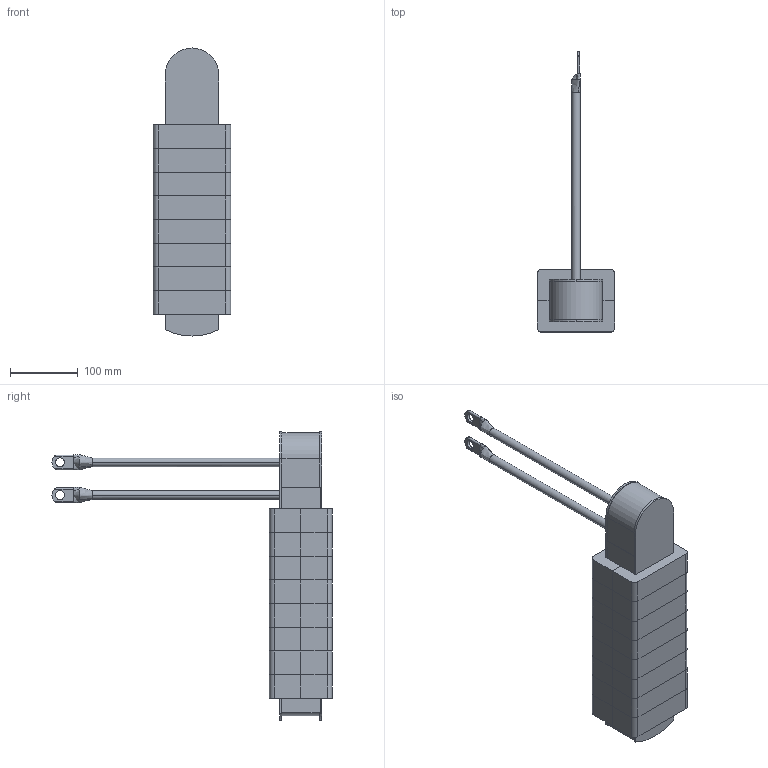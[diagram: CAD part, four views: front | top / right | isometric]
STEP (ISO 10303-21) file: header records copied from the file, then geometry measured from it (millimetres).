
FILE_DESCRIPTION (( 'STEP AP214' ), '1' );
FILE_NAME ('HCS-211M-300A.STEP', '2020-08-01T16:14:18', ( '' ), ( '' ), 'SwSTEP 2.0', 'SolidWorks 2015', '' );
FILE_SCHEMA (( 'AUTOMOTIVE_DESIGN' ));
Length unit declared in the file: inch
Products named in the file (1): HCS-211M-300A
Bounding box: 114.3 x 413.08 x 424.61 mm (x, y, z)
Surface area: 253084.6 mm2 (no closed solid volume)
Topology: 0 solids, 24 shells, 148 faces, 501 edges, 378 vertices
Faces by surface type: plane 85, cylinder 55, bspline 8
Entity records: 8753 total; most frequent: CARTESIAN_POINT 2596, DIRECTION 855, ORIENTED_EDGE 730, EDGE_CURVE 501, VERTEX_POINT 378, LINE 349, VECTOR 349, AXIS2_PLACEMENT_3D 253
